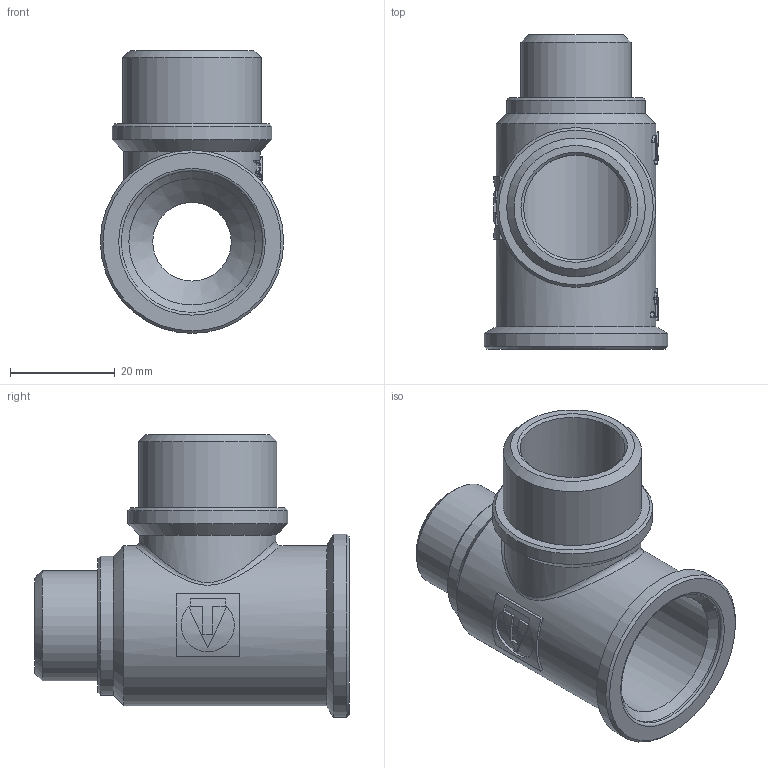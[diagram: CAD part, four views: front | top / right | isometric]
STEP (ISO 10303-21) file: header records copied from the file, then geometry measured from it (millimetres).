
FILE_DESCRIPTION(('STEP AP203'), '1');
FILE_NAME('ÂÐ.752249.009 - VTr.133.RN.050504 - Ôèò. ðåçüá. òðîé', '2024-06-25T11:48:57', ('Boss'), (''), 'C3D Converter', 'C3D Toolkit', '');
FILE_SCHEMA(('CONFIG_CONTROL_DESIGN'));
Length unit declared in the file: millimetre
Products named in the file (1): ВР.752249.009
Bounding box: 35 x 60 x 54 mm (x, y, z)
Volume: 21373.8 mm3; surface area: 13809.3 mm2
Topology: 1 solids, 1 shells, 352 faces, 974 edges, 644 vertices
Faces by surface type: extrusion 196, plane 112, cylinder 30, cone 12, bspline 1, torus 1
Full cylindrical faces by diameter (mm): 15 x1, 20 x1, 21 x1, 24.118 x1, 26 x1, 26.441 x1, 26.5 x1, 27 x1, 30.5 x2, 35 x1
Entity records: 15969 total; most frequent: CARTESIAN_POINT 8098, ORIENTED_EDGE 1894, DIRECTION 1028, EDGE_CURVE 947, VERTEX_POINT 643, B_SPLINE_CURVE_WITH_KNOTS 592, VECTOR 548, EDGE_LOOP 402
